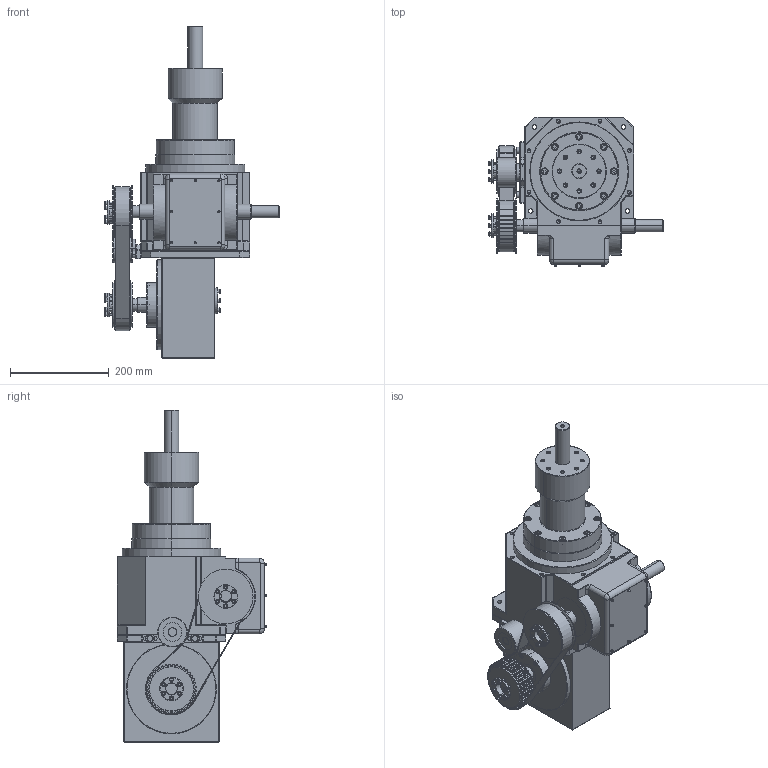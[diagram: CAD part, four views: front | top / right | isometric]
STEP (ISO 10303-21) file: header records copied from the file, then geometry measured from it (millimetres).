
FILE_DESCRIPTION((''),'2;1');
FILE_NAME('110DTS','2015-01-15T',('松仔'),(''),'PRO/ENGINEER BY PARAMETRIC TECHNOLOGY CORPORATION, 2013430','PRO/ENGINEER BY PARAMETRIC TECHNOLOGY CORPORATION, 2013430','');
FILE_SCHEMA(('CONFIG_CONTROL_DESIGN'));
Products named in the file (1): 110DTS
Bounding box: 353 x 303.2 x 672 mm (x, y, z)
Volume: 17184033.9 mm3; surface area: 735311.2 mm2
Topology: 2 solids, 79 shells, 2058 faces, 4896 edges, 3027 vertices
Faces by surface type: cylinder 1099, plane 596, torus 136, cone 129, sphere 62, bspline 36
Entity records: 61740 total; most frequent: CARTESIAN_POINT 12308, DIRECTION 11646, ORIENTED_EDGE 9468, EDGE_CURVE 4854, AXIS2_PLACEMENT_3D 4841, VERTEX_POINT 3027, CIRCLE 2818, EDGE_LOOP 2269
